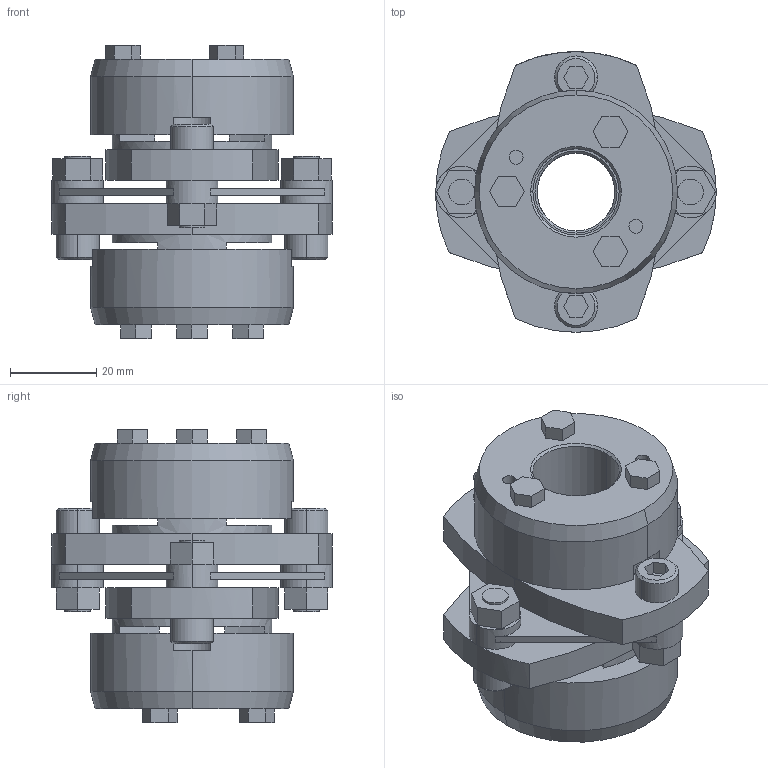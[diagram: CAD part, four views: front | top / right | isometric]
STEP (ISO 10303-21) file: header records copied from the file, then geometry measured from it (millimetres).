
FILE_DESCRIPTION((''),'2;1');
FILE_NAME('LCS-65T7-18×20.stp','2011-08-23T13:22:09',(''),(''),'AutoCAD STEP 2000i','AutoCAD 2000i',', , ');
FILE_SCHEMA(('CONFIG_CONTROL_DESIGN'));
Length unit declared in the file: millimetre
Products named in the file (8): LCS-65T7-17×19; 忣兜1; LC65T7-T019; LC65T7-T017-1; LC65T7-T017; LC65T7-T015-1; LC65T7-T015; LCS65-ITA
Assembly tree (7 placements, depth 2):
  LCS-65T7-17×19
    忣兜1
    LC65T7-T019
    LC65T7-T017-1
    LC65T7-T017
    LC65T7-T015-1
    LC65T7-T015
    LCS65-ITA
Bounding box: 65 x 65 x 67.9 mm (x, y, z)
Volume: 89782.5 mm3; surface area: 30049.2 mm2
Topology: 1 solids, 1 shells, 228 faces, 586 edges, 382 vertices
Faces by surface type: plane 136, cylinder 72, cone 20
Entity records: 7181 total; most frequent: DIRECTION 1268, CARTESIAN_POINT 1204, ORIENTED_EDGE 1172, EDGE_CURVE 586, AXIS2_PLACEMENT_3D 446, VERTEX_POINT 382, VECTOR 376, LINE 376
